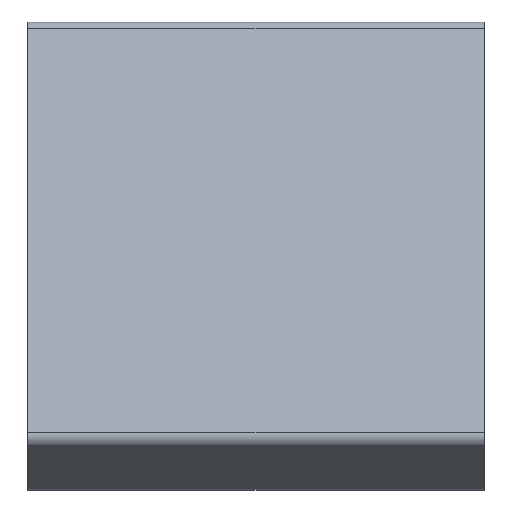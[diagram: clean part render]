
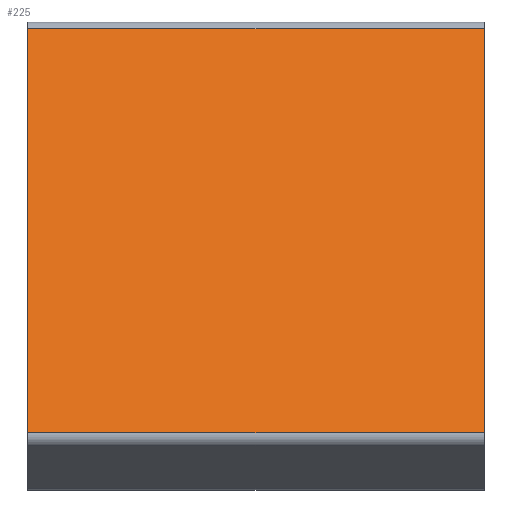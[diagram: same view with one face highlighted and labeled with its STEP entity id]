
A CAD part, front view. The second image highlights one B-rep face of the part: STEP entity #225.
In plain terms, the highlighted planar face has unit normal (0, -0.935, 0.356).
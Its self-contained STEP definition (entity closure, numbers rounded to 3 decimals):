
#163 = VERTEX_POINT( '', #400 );
#177 = EDGE_CURVE( '', #195, #331, #415, .T. );
#195 = VERTEX_POINT( '', #436 );
#213 = EDGE_CURVE( '', #163, #249, #454, .T. );
#225 = ADVANCED_FACE( '', ( #467 ), #468, .T. );
#239 = EDGE_CURVE( '', #163, #331, #482, .T. );
#249 = VERTEX_POINT( '', #492 );
#305 = EDGE_CURVE( '', #249, #195, #553, .T. );
#331 = VERTEX_POINT( '', #582 );
#400 = CARTESIAN_POINT( '', ( -12., -14.465, 5.411 ) );
#415 = LINE( '', #674, #675 );
#436 = CARTESIAN_POINT( '', ( 28., -27.935, -29.996 ) );
#454 = LINE( '', #724, #725 );
#467 = FACE_OUTER_BOUND( '', #741, .T. );
#468 = PLANE( '', #742 );
#482 = LINE( '', #763, #764 );
#492 = CARTESIAN_POINT( '', ( -12., -27.935, -29.996 ) );
#553 = LINE( '', #865, #866 );
#582 = CARTESIAN_POINT( '', ( 28., -14.465, 5.411 ) );
#674 = CARTESIAN_POINT( '', ( 28., -14.465, 5.411 ) );
#675 = VECTOR( '', #999, 1. );
#724 = CARTESIAN_POINT( '', ( -12., -14.465, 5.411 ) );
#725 = VECTOR( '', #1053, 1. );
#741 = EDGE_LOOP( '', ( #1067, #1068, #1069, #1070 ) );
#742 = AXIS2_PLACEMENT_3D( '', #1071, #1072, #1073 );
#763 = CARTESIAN_POINT( '', ( -12., -14.465, 5.411 ) );
#764 = VECTOR( '', #1082, 1. );
#865 = CARTESIAN_POINT( '', ( -12., -27.935, -29.996 ) );
#866 = VECTOR( '', #1146, 1. );
#999 = DIRECTION( '', ( 0., 0.356, 0.935 ) );
#1053 = DIRECTION( '', ( 0., -0.356, -0.935 ) );
#1067 = ORIENTED_EDGE( '', *, *, #177, .T. );
#1068 = ORIENTED_EDGE( '', *, *, #239, .F. );
#1069 = ORIENTED_EDGE( '', *, *, #213, .T. );
#1070 = ORIENTED_EDGE( '', *, *, #305, .T. );
#1071 = CARTESIAN_POINT( '', ( -12., -27.935, -29.996 ) );
#1072 = DIRECTION( '', ( 0., -0.935, 0.356 ) );
#1073 = DIRECTION( '', ( 0., -0.356, -0.935 ) );
#1082 = DIRECTION( '', ( 1., 0., 0. ) );
#1146 = DIRECTION( '', ( 1., 0., 0. ) );
